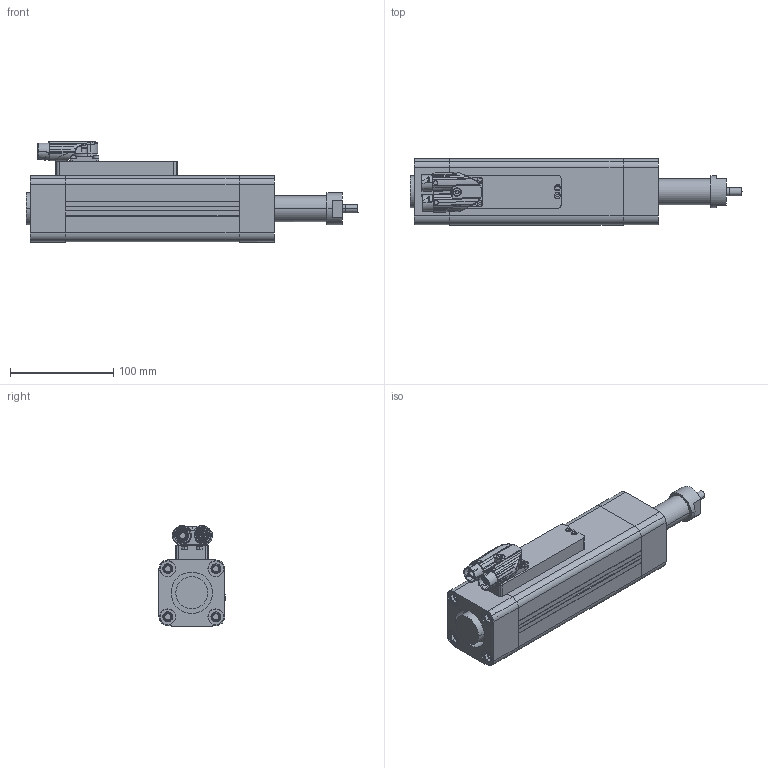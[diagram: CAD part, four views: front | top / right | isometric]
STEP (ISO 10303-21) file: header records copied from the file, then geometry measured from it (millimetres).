
FILE_DESCRIPTION(('STEP AP214'),'1');
FILE_NAME('C:/Users/Autocad/Desktop/ETT50S0260.stp','2013-10-22T15:07:48',(' '),(' '),'Spatial InterOp 3D',' ',' ');
FILE_SCHEMA(('automotive_design'));
Length unit declared in the file: millimetre
Products named in the file (19): ETT50S0260; ETH050 2 finto; TAPPO NORMALE; TAPPO; Scatola; Vite M3 lunga; Connettore doppio originale; Vite M3scheda -tappo; cuscinetto; Slider FINTO maschio; viti parker; riempitivo
Assembly tree (28 placements, depth 2):
  ETT50S0260
    ETH050 2 finto
    TAPPO NORMALE
    TAPPO
    Scatola
    Vite M3 lunga  x4
    Connettore doppio originale
    Vite M3scheda -tappo  x4
    cuscinetto  x2
    Slider FINTO maschio
    viti parker
    viti parker
    viti parker
    viti parker
    viti parker
    viti parker
    viti parker
    viti parker
    riempitivo  x4
Bounding box: 321 x 63.85 x 96.95 mm (x, y, z)
Volume: 808586.1 mm3; surface area: 254933.4 mm2
Topology: 27 solids, 1828 shells, 2422 faces, 10640 edges, 10098 vertices
Faces by surface type: cylinder 997, plane 689, bspline 283, torus 253, cone 91, extrusion 68, sphere 41
Entity records: 150567 total; most frequent: CARTESIAN_POINT 60744, DIRECTION 15060, ORIENTED_EDGE 10573, EDGE_CURVE 9746, VERTEX_POINT 9472, AXIS2_PLACEMENT_3D 5878, CIRCLE 3792, VECTOR 3304
